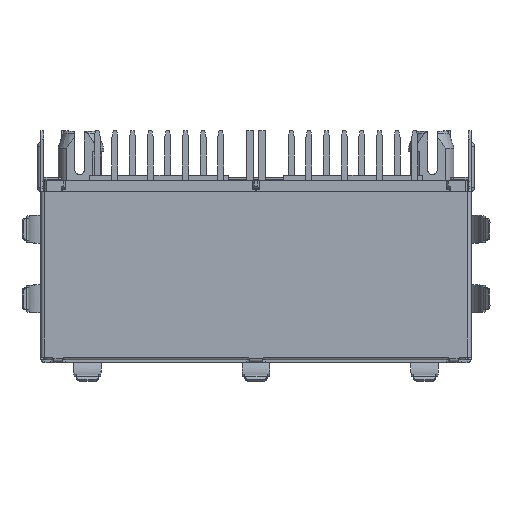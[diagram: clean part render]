
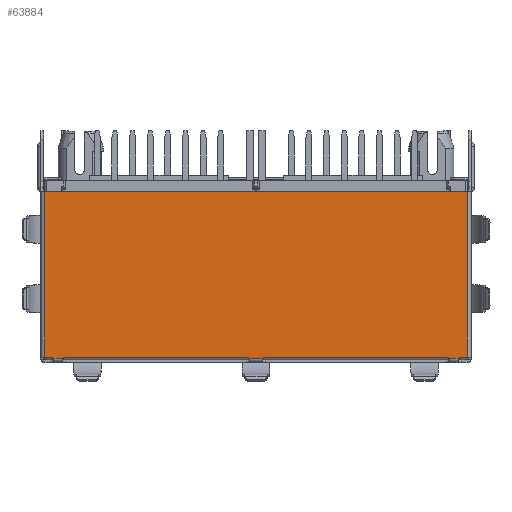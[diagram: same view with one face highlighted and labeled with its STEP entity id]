
A CAD part, front view. The second image highlights one B-rep face of the part: STEP entity #63884.
In plain terms, the highlighted planar face has unit normal (0, -1, 0).
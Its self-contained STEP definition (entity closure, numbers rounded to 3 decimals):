
#4260=DIRECTION('',(-1.,0.,0.));
#4261=VECTOR('',#4260,30.4);
#4262=CARTESIAN_POINT('',(30.35,-0.2,-4.35));
#4263=LINE('',#4262,#4261);
#18613=DIRECTION('',(0.,0.,-1.));
#18614=VECTOR('',#18613,11.9);
#18615=CARTESIAN_POINT('',(-0.05,-0.2,-4.35));
#18616=LINE('',#18615,#18614);
#18617=DIRECTION('',(-1.,0.,0.));
#18618=VECTOR('',#18617,0.4);
#18619=CARTESIAN_POINT('',(30.35,-0.2,-16.25));
#18620=LINE('',#18619,#18618);
#18621=CARTESIAN_POINT('',(29.95,-0.2,-16.45));
#18622=DIRECTION('',(0.,-1.,0.));
#18623=DIRECTION('',(0.,0.,1.));
#18624=AXIS2_PLACEMENT_3D('',#18621,#18622,#18623);
#18626=CARTESIAN_POINT('',(28.85,-0.2,-16.45));
#18627=DIRECTION('',(0.,-1.,0.));
#18628=DIRECTION('',(0.866,0.,0.5));
#18629=AXIS2_PLACEMENT_3D('',#18626,#18627,#18628);
#18631=DIRECTION('',(-1.,0.,0.));
#18632=VECTOR('',#18631,13.05);
#18633=CARTESIAN_POINT('',(28.85,-0.2,-16.25));
#18634=LINE('',#18633,#18632);
#18635=CARTESIAN_POINT('',(15.8,-0.2,-16.45));
#18636=DIRECTION('',(0.,-1.,0.));
#18637=DIRECTION('',(0.,0.,1.));
#18638=AXIS2_PLACEMENT_3D('',#18635,#18636,#18637);
#18640=CARTESIAN_POINT('',(14.5,-0.2,-16.45));
#18641=DIRECTION('',(0.,-1.,0.));
#18642=DIRECTION('',(0.866,0.,0.5));
#18643=AXIS2_PLACEMENT_3D('',#18640,#18641,#18642);
#18645=DIRECTION('',(-1.,0.,0.));
#18646=VECTOR('',#18645,13.05);
#18647=CARTESIAN_POINT('',(14.5,-0.2,-16.25));
#18648=LINE('',#18647,#18646);
#18649=CARTESIAN_POINT('',(1.45,-0.2,-16.45));
#18650=DIRECTION('',(0.,-1.,0.));
#18651=DIRECTION('',(0.,0.,1.));
#18652=AXIS2_PLACEMENT_3D('',#18649,#18650,#18651);
#18654=CARTESIAN_POINT('',(0.35,-0.2,-16.45));
#18655=DIRECTION('',(0.,-1.,0.));
#18656=DIRECTION('',(0.866,0.,0.5));
#18657=AXIS2_PLACEMENT_3D('',#18654,#18655,#18656);
#18659=DIRECTION('',(-1.,0.,0.));
#18660=VECTOR('',#18659,0.4);
#18661=CARTESIAN_POINT('',(0.35,-0.2,-16.25));
#18662=LINE('',#18661,#18660);
#18663=DIRECTION('',(0.,0.,1.));
#18664=VECTOR('',#18663,11.9);
#18665=CARTESIAN_POINT('',(30.35,-0.2,-16.25));
#18666=LINE('',#18665,#18664);
#18795=DIRECTION('',(1.,0.,0.));
#18796=VECTOR('',#18795,0.754);
#18797=CARTESIAN_POINT('',(0.523,-0.2,-16.35));
#18798=LINE('',#18797,#18796);
#19011=DIRECTION('',(1.,0.,0.));
#19012=VECTOR('',#19011,0.754);
#19013=CARTESIAN_POINT('',(29.023,-0.2,-16.35));
#19014=LINE('',#19013,#19012);
#19065=DIRECTION('',(1.,0.,0.));
#19066=VECTOR('',#19065,0.954);
#19067=CARTESIAN_POINT('',(14.673,-0.2,-16.35));
#19068=LINE('',#19067,#19066);
#31459=CARTESIAN_POINT('',(30.35,-0.2,-4.35));
#31460=VERTEX_POINT('',#31459);
#31461=CARTESIAN_POINT('',(-0.05,-0.2,-4.35));
#31462=VERTEX_POINT('',#31461);
#34662=CARTESIAN_POINT('',(0.35,-0.2,-16.25));
#34663=VERTEX_POINT('',#34662);
#34664=CARTESIAN_POINT('',(0.523,-0.2,-16.35));
#34665=VERTEX_POINT('',#34664);
#34675=CARTESIAN_POINT('',(-0.05,-0.2,-16.25));
#34676=VERTEX_POINT('',#34675);
#34725=CARTESIAN_POINT('',(30.35,-0.2,-16.25));
#34726=VERTEX_POINT('',#34725);
#34727=CARTESIAN_POINT('',(29.95,-0.2,-16.25));
#34728=VERTEX_POINT('',#34727);
#34729=CARTESIAN_POINT('',(29.777,-0.2,-16.35));
#34730=VERTEX_POINT('',#34729);
#34731=CARTESIAN_POINT('',(29.023,-0.2,-16.35));
#34732=VERTEX_POINT('',#34731);
#34733=CARTESIAN_POINT('',(28.85,-0.2,-16.25));
#34734=VERTEX_POINT('',#34733);
#34735=CARTESIAN_POINT('',(15.8,-0.2,-16.25));
#34736=VERTEX_POINT('',#34735);
#34737=CARTESIAN_POINT('',(15.627,-0.2,-16.35));
#34738=VERTEX_POINT('',#34737);
#34739=CARTESIAN_POINT('',(14.673,-0.2,-16.35));
#34740=VERTEX_POINT('',#34739);
#34741=CARTESIAN_POINT('',(14.5,-0.2,-16.25));
#34742=VERTEX_POINT('',#34741);
#34743=CARTESIAN_POINT('',(1.45,-0.2,-16.25));
#34744=VERTEX_POINT('',#34743);
#34745=CARTESIAN_POINT('',(1.277,-0.2,-16.35));
#34746=VERTEX_POINT('',#34745);
#63848=CARTESIAN_POINT('',(15.15,-0.2,-8.16));
#63849=DIRECTION('',(0.,1.,0.));
#63850=DIRECTION('',(1.,0.,0.));
#63851=AXIS2_PLACEMENT_3D('',#63848,#63849,#63850);
#63852=PLANE('',#63851);
#63853=ORIENTED_EDGE('',*,*,#44398,.F.);
#63855=ORIENTED_EDGE('',*,*,#63854,.F.);
#63857=ORIENTED_EDGE('',*,*,#63856,.T.);
#63859=ORIENTED_EDGE('',*,*,#63858,.T.);
#63861=ORIENTED_EDGE('',*,*,#63860,.F.);
#63863=ORIENTED_EDGE('',*,*,#63862,.T.);
#63865=ORIENTED_EDGE('',*,*,#63864,.T.);
#63867=ORIENTED_EDGE('',*,*,#63866,.T.);
#63869=ORIENTED_EDGE('',*,*,#63868,.F.);
#63871=ORIENTED_EDGE('',*,*,#63870,.T.);
#63873=ORIENTED_EDGE('',*,*,#63872,.T.);
#63875=ORIENTED_EDGE('',*,*,#63874,.T.);
#63877=ORIENTED_EDGE('',*,*,#63876,.F.);
#63879=ORIENTED_EDGE('',*,*,#63878,.T.);
#63880=ORIENTED_EDGE('',*,*,#63659,.T.);
#63881=ORIENTED_EDGE('',*,*,#63843,.F.);
#63882=EDGE_LOOP('',(#63853,#63855,#63857,#63859,#63861,#63863,#63865,#63867,
#63869,#63871,#63873,#63875,#63877,#63879,#63880,#63881));
#63883=FACE_OUTER_BOUND('',#63882,.F.);
#63884=ADVANCED_FACE('',(#63883),#63852,.F.);
#18625=CIRCLE('',#18624,0.2);
#18630=CIRCLE('',#18629,0.2);
#18639=CIRCLE('',#18638,0.2);
#18644=CIRCLE('',#18643,0.2);
#18653=CIRCLE('',#18652,0.2);
#18658=CIRCLE('',#18657,0.2);
#44398=EDGE_CURVE('',#31460,#31462,#4263,.T.);
#63659=EDGE_CURVE('',#34663,#34676,#18662,.T.);
#63843=EDGE_CURVE('',#31462,#34676,#18616,.T.);
#63854=EDGE_CURVE('',#34726,#31460,#18666,.T.);
#63856=EDGE_CURVE('',#34726,#34728,#18620,.T.);
#63858=EDGE_CURVE('',#34728,#34730,#18625,.T.);
#63860=EDGE_CURVE('',#34732,#34730,#19014,.T.);
#63862=EDGE_CURVE('',#34732,#34734,#18630,.T.);
#63864=EDGE_CURVE('',#34734,#34736,#18634,.T.);
#63866=EDGE_CURVE('',#34736,#34738,#18639,.T.);
#63868=EDGE_CURVE('',#34740,#34738,#19068,.T.);
#63870=EDGE_CURVE('',#34740,#34742,#18644,.T.);
#63872=EDGE_CURVE('',#34742,#34744,#18648,.T.);
#63874=EDGE_CURVE('',#34744,#34746,#18653,.T.);
#63876=EDGE_CURVE('',#34665,#34746,#18798,.T.);
#63878=EDGE_CURVE('',#34665,#34663,#18658,.T.);
